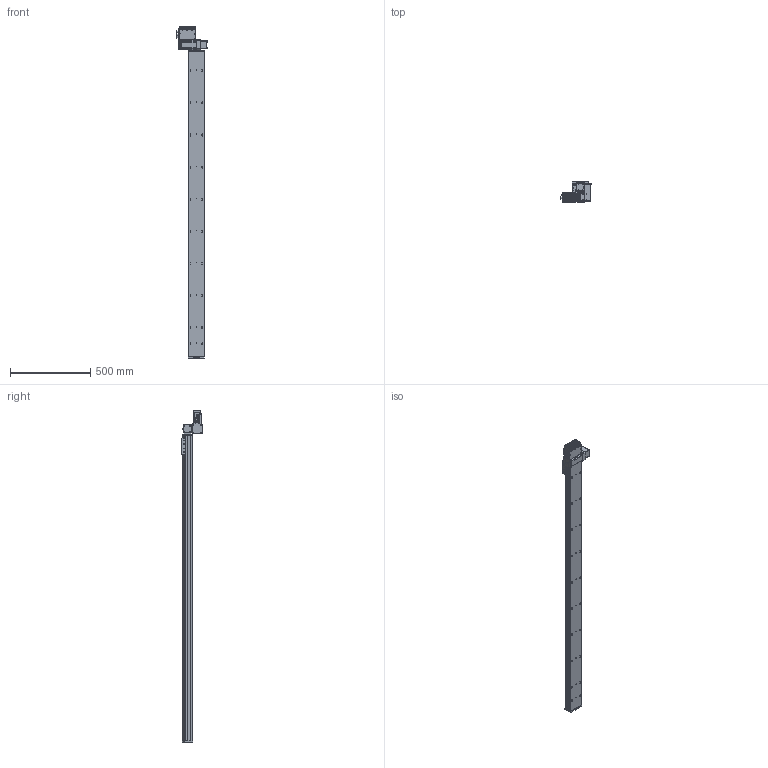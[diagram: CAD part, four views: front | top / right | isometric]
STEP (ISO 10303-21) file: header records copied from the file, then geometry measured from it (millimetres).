
FILE_DESCRIPTION (( 'STEP AP203' ), '1' );
FILE_NAME ('S10 TBH LH S1900.STEP', '2012-06-18T16:01:00', ( 'Conseil Régional Haute-Normandie' ), ( 'Conseil Régional Haute-Normandie' ), 'SwSTEP 2.0', 'SolidWorks 2010', '' );
FILE_SCHEMA (( 'CONFIG_CONTROL_DESIGN' ));
Length unit declared in the file: millimetre
Products named in the file (31): plaque de bout s10_Default; Plaque racord_Default; Vis TF 3 torkx; vis M5 L5_Default; Assem1_7; BU45 Carte d''axe A11_5; Moteur 60BLDC90A_3; Couvercle_3; Radiateur profil_X2_00E9_X0_ 100x25_3; Colonnette ronde_3; T_X2_00F4_X0_le Arri_X2_00E8_X0_re_5; S10 TBH LH S1900; cache t皻e axe_Default; cache t皻e_Default; embout; palette tbn; renvoi LH_Default; Cvis M5 L30_Default; Vis M5 L16-2_Default_1; vis M5 L12_Default; T_X2_00F4_X0_le contre le moteur_5; BU41 Carte Alimentation P05_3; Colonnette_3; T_X2_00F4_X0_le fond_3; Connecteur rond D10 3cts_5; Connecteur rond D12 4cts_5; Sub D 9cts 90_X2_00B_X0__3; T_X2_00F4_X0_le lat_X2_00E9_X0_rale_5; Vis TF 3 torkx_1_1; axe1900; axe 1900
Assembly tree (70 placements, depth 3):
  S10 TBH LH S1900
    axe1900
      axe 1900
    Assem1_7
      Vis TF 3 torkx_1_1  x21
      T_X2_00F4_X0_le contre le moteur_5
      T_X2_00F4_X0_le lat_X2_00E9_X0_rale_5  x2
      BU45 Carte d''axe A11_5
      T_X2_00F4_X0_le Arri_X2_00E8_X0_re_5
      Connecteur rond D10 3cts_5  x2
      Connecteur rond D12 4cts_5
      Radiateur profil_X2_00E9_X0_ 100x25_3
      Colonnette_3  x2
      T_X2_00F4_X0_le fond_3
      BU41 Carte Alimentation P05_3
      Moteur 60BLDC90A_3
      Colonnette ronde_3
      Sub D 9cts 90_X2_00B_X0__3
      Couvercle_3
    vis M5 L5_Default  x4
    cache t皻e axe_Default
    palette tbn
    cache t皻e_Default  x2
    plaque de bout s10_Default
    Plaque racord_Default
    Vis TF 3 torkx  x7
    Vis M5 L16-2_Default_1  x4
    vis M5 L12_Default  x4
    embout
    renvoi LH_Default
    Cvis M5 L30_Default  x2
Bounding box: 189.8 x 124.75 x 2066.5 mm (x, y, z)
Volume: 10704830.5 mm3; surface area: 1214820.9 mm2
Topology: 68 solids, 68 shells, 2550 faces, 6325 edges, 4083 vertices
Faces by surface type: plane 1220, cylinder 1091, cone 196, bspline 40, torus 3
Entity records: 50368 total; most frequent: CARTESIAN_POINT 8997, DIRECTION 8130, ORIENTED_EDGE 7354, EDGE_CURVE 3677, AXIS2_PLACEMENT_3D 3027, VERTEX_POINT 2399, LINE 2076, VECTOR 2076
